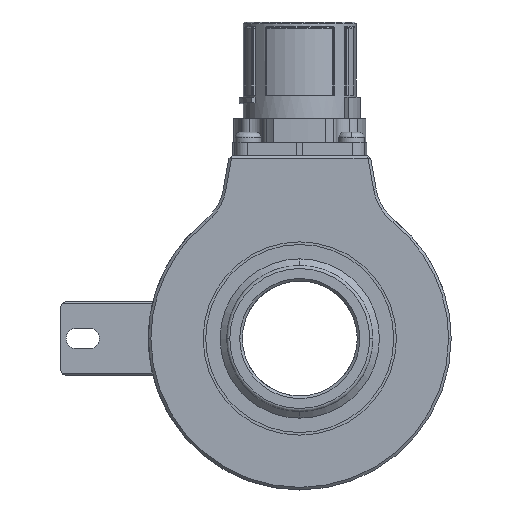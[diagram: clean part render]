
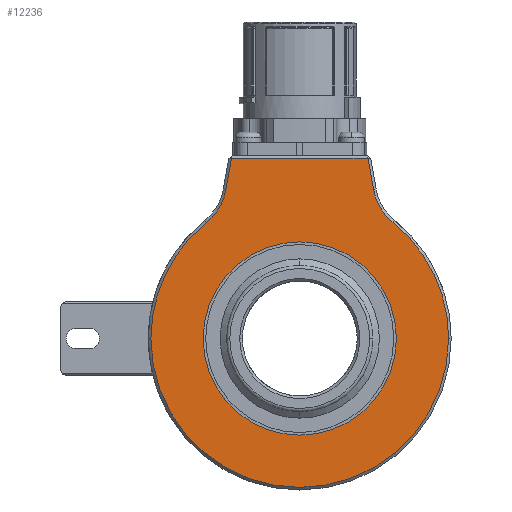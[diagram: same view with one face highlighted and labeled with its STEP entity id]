
A CAD part, left-side view. The second image highlights one B-rep face of the part: STEP entity #12236.
In plain terms, the highlighted planar face has unit normal (-1, 0, 0).
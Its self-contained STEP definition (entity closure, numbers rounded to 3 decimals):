
#504 = DIRECTION ( 'NONE',  ( 0., -1., 0. ) ) ;
#638 = VERTEX_POINT ( 'NONE', #3863 ) ;
#660 = DIRECTION ( 'NONE',  ( 1., 0., 0. ) ) ;
#790 = FACE_BOUND ( 'NONE', #8111, .T. ) ;
#1299 = CARTESIAN_POINT ( 'NONE',  ( -27., 0., 0. ) ) ;
#1375 = VECTOR ( 'NONE', #10112, 1000. ) ;
#1637 = VERTEX_POINT ( 'NONE', #3623 ) ;
#1641 = CIRCLE ( 'NONE', #6625, 10.5 ) ;
#2489 = EDGE_CURVE ( 'NONE', #638, #17735, #1641, .T. ) ;
#3623 = CARTESIAN_POINT ( 'NONE',  ( -27., -14.131, 28.544 ) ) ;
#3863 = CARTESIAN_POINT ( 'NONE',  ( -27., 14.131, 28.544 ) ) ;
#4381 = AXIS2_PLACEMENT_3D ( 'NONE', #8358, #5838, #16754 ) ;
#5012 = CARTESIAN_POINT ( 'NONE',  ( -27., 0., 0. ) ) ;
#5092 = CARTESIAN_POINT ( 'NONE',  ( -27., 18.5, 0. ) ) ;
#5509 = FACE_OUTER_BOUND ( 'NONE', #14356, .T. ) ;
#5671 = DIRECTION ( 'NONE',  ( 0., -1., 0. ) ) ;
#5684 = CARTESIAN_POINT ( 'NONE',  ( -27., -28.5, 0. ) ) ;
#5760 = CIRCLE ( 'NONE', #15244, 28.5 ) ;
#5838 = DIRECTION ( 'NONE',  ( -1., 0., 0. ) ) ;
#6019 = CARTESIAN_POINT ( 'NONE',  ( -27., -13.08, 34.5 ) ) ;
#6415 = EDGE_CURVE ( 'NONE', #9198, #24212, #26059, .T. ) ;
#6625 = AXIS2_PLACEMENT_3D ( 'NONE', #24243, #660, #9339 ) ;
#6911 = DIRECTION ( 'NONE',  ( 1., 0., 0. ) ) ;
#7352 = CARTESIAN_POINT ( 'NONE',  ( -27., -18.5, 0. ) ) ;
#7374 = CARTESIAN_POINT ( 'NONE',  ( -27., 19.46, -1.682 ) ) ;
#8111 = EDGE_LOOP ( 'NONE', ( #27846, #26672 ) ) ;
#8282 = ORIENTED_EDGE ( 'NONE', *, *, #22305, .T. ) ;
#8358 = CARTESIAN_POINT ( 'NONE',  ( -27., 0., 0. ) ) ;
#8510 = AXIS2_PLACEMENT_3D ( 'NONE', #18163, #14033, #5671 ) ;
#8905 = CARTESIAN_POINT ( 'NONE',  ( -27., -24.471, 30.367 ) ) ;
#8947 = ORIENTED_EDGE ( 'NONE', *, *, #2489, .T. ) ;
#9198 = VERTEX_POINT ( 'NONE', #7352 ) ;
#9279 = ORIENTED_EDGE ( 'NONE', *, *, #18186, .T. ) ;
#9310 = ORIENTED_EDGE ( 'NONE', *, *, #23337, .T. ) ;
#9339 = DIRECTION ( 'NONE',  ( 0., -1., 0. ) ) ;
#9510 = AXIS2_PLACEMENT_3D ( 'NONE', #8905, #6911, #26510 ) ;
#9516 = CARTESIAN_POINT ( 'NONE',  ( -27., -17.883, 22.191 ) ) ;
#9828 = DIRECTION ( 'NONE',  ( 1., 0., 0. ) ) ;
#10112 = DIRECTION ( 'NONE',  ( 0., 1., 0. ) ) ;
#10724 = VERTEX_POINT ( 'NONE', #24749 ) ;
#11928 = LINE ( 'NONE', #20599, #14035 ) ;
#12236 = ADVANCED_FACE ( 'NONE', ( #5509, #790 ), #13851, .T. ) ;
#12866 = VERTEX_POINT ( 'NONE', #9516 ) ;
#13446 = LINE ( 'NONE', #7374, #21637 ) ;
#13851 = PLANE ( 'NONE',  #20668 ) ;
#14033 = DIRECTION ( 'NONE',  ( -1., 0., 0. ) ) ;
#14035 = VECTOR ( 'NONE', #21148, 1000. ) ;
#14173 = ORIENTED_EDGE ( 'NONE', *, *, #18860, .T. ) ;
#14344 = DIRECTION ( 'NONE',  ( 1., 0., 0. ) ) ;
#14356 = EDGE_LOOP ( 'NONE', ( #9279, #14173, #15562, #8947, #8282, #28007, #9310, #25590 ) ) ;
#14702 = EDGE_CURVE ( 'NONE', #24212, #9198, #20776, .T. ) ;
#14913 = CARTESIAN_POINT ( 'NONE',  ( -27., 29., 34.5 ) ) ;
#15244 = AXIS2_PLACEMENT_3D ( 'NONE', #22774, #18638, #27038 ) ;
#15562 = ORIENTED_EDGE ( 'NONE', *, *, #24087, .T. ) ;
#15777 = CIRCLE ( 'NONE', #8510, 28.5 ) ;
#16479 = VERTEX_POINT ( 'NONE', #5684 ) ;
#16679 = EDGE_CURVE ( 'NONE', #12866, #1637, #24486, .T. ) ;
#16754 = DIRECTION ( 'NONE',  ( 0., -1., 0. ) ) ;
#17735 = VERTEX_POINT ( 'NONE', #24478 ) ;
#18163 = CARTESIAN_POINT ( 'NONE',  ( -27., 0., 0. ) ) ;
#18183 = VERTEX_POINT ( 'NONE', #22749 ) ;
#18186 = EDGE_CURVE ( 'NONE', #1637, #25437, #11928, .T. ) ;
#18638 = DIRECTION ( 'NONE',  ( -1., 0., 0. ) ) ;
#18860 = EDGE_CURVE ( 'NONE', #25437, #10724, #21333, .T. ) ;
#20538 = CARTESIAN_POINT ( 'NONE',  ( -27., 29., 0. ) ) ;
#20599 = CARTESIAN_POINT ( 'NONE',  ( -27., -17.711, 8.236 ) ) ;
#20668 = AXIS2_PLACEMENT_3D ( 'NONE', #20538, #24374, #504 ) ;
#20776 = CIRCLE ( 'NONE', #24401, 18.5 ) ;
#21148 = DIRECTION ( 'NONE',  ( 0., 0.174, 0.985 ) ) ;
#21333 = LINE ( 'NONE', #14913, #1375 ) ;
#21637 = VECTOR ( 'NONE', #21964, 1000. ) ;
#21642 = EDGE_CURVE ( 'NONE', #18183, #16479, #5760, .T. ) ;
#21964 = DIRECTION ( 'NONE',  ( 0., 0.174, -0.985 ) ) ;
#22305 = EDGE_CURVE ( 'NONE', #17735, #18183, #23008, .T. ) ;
#22749 = CARTESIAN_POINT ( 'NONE',  ( -27., 28.5, 0. ) ) ;
#22774 = CARTESIAN_POINT ( 'NONE',  ( -27., 0., 0. ) ) ;
#23008 = CIRCLE ( 'NONE', #4381, 28.5 ) ;
#23030 = DIRECTION ( 'NONE',  ( 0., 1., 0. ) ) ;
#23337 = EDGE_CURVE ( 'NONE', #16479, #12866, #15777, .T. ) ;
#24087 = EDGE_CURVE ( 'NONE', #10724, #638, #13446, .T. ) ;
#24212 = VERTEX_POINT ( 'NONE', #5092 ) ;
#24243 = CARTESIAN_POINT ( 'NONE',  ( -27., 24.471, 30.367 ) ) ;
#24374 = DIRECTION ( 'NONE',  ( -1., 0., 0. ) ) ;
#24401 = AXIS2_PLACEMENT_3D ( 'NONE', #1299, #14344, #23030 ) ;
#24478 = CARTESIAN_POINT ( 'NONE',  ( -27., 17.883, 22.191 ) ) ;
#24486 = CIRCLE ( 'NONE', #9510, 10.5 ) ;
#24722 = AXIS2_PLACEMENT_3D ( 'NONE', #5012, #9828, #25049 ) ;
#24749 = CARTESIAN_POINT ( 'NONE',  ( -27., 13.08, 34.5 ) ) ;
#25049 = DIRECTION ( 'NONE',  ( 0., 1., 0. ) ) ;
#25437 = VERTEX_POINT ( 'NONE', #6019 ) ;
#25590 = ORIENTED_EDGE ( 'NONE', *, *, #16679, .T. ) ;
#26059 = CIRCLE ( 'NONE', #24722, 18.5 ) ;
#26510 = DIRECTION ( 'NONE',  ( 0., -1., 0. ) ) ;
#26672 = ORIENTED_EDGE ( 'NONE', *, *, #6415, .T. ) ;
#27038 = DIRECTION ( 'NONE',  ( 0., -1., 0. ) ) ;
#27846 = ORIENTED_EDGE ( 'NONE', *, *, #14702, .T. ) ;
#28007 = ORIENTED_EDGE ( 'NONE', *, *, #21642, .T. ) ;
